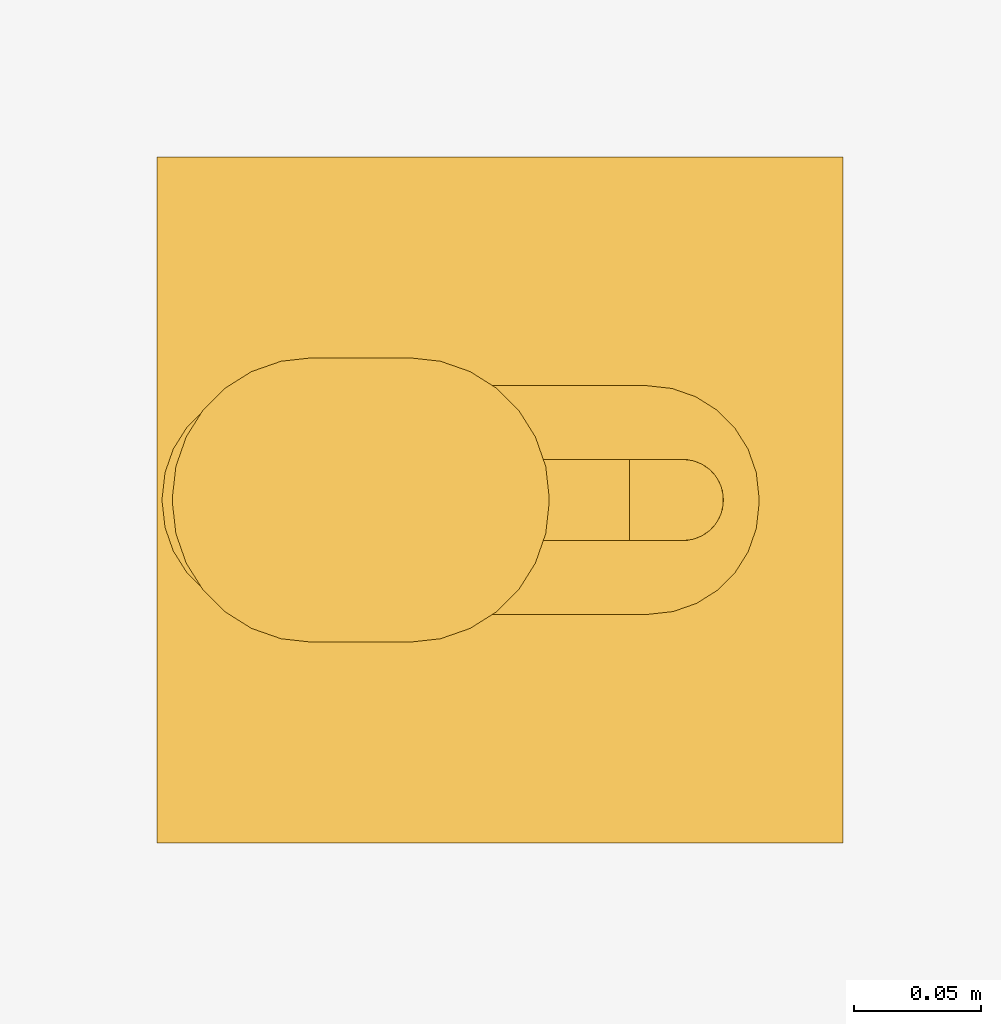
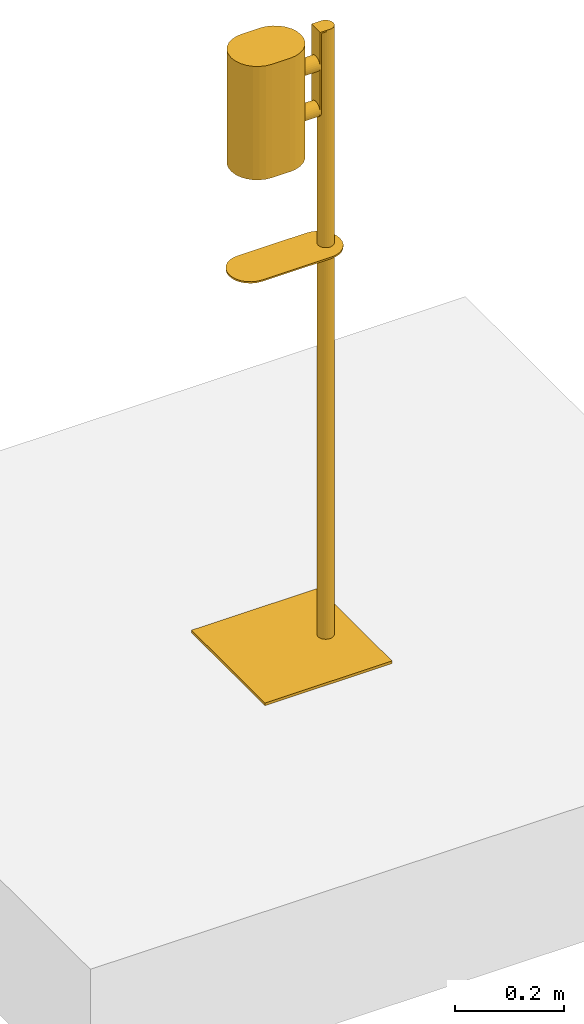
# One storey, part 2 of 2: 1 door.
"""IFC2X3 building model written with IfcOpenShell, lengths in feet."""

import ifcopenshell
import ifcopenshell.guid

model = None  # the IFC model being written
_history = None  # IfcOwnerHistory: only IFC2X3 demands one
_inside = {}  # id of a spatial element -> (the spatial element, [elements in it])
_under = {}  # id of a project, library or spatial element -> (it, [spatial elements below it])
_declared = {}  # id of a project -> (the project, [libraries it declares])
_typed = {}  # id of a type object -> (the type object, [elements of that type])
_made_of = {}  # id of a material, layer set ... -> (it, [elements and type objects made of it])


def new_model(schema):
    """Start an empty IFC model of exactly this schema.

    Asked for "IFC4X3", IfcOpenShell would pick the latest addendum, in which some entities
    have other attributes; the version numbers below select the first issue.
    IFC2X3 requires an IfcOwnerHistory on every rooted entity: one is made here for all.
    """
    global model, _history
    if schema == "IFC4X3":
        model = ifcopenshell.file(schema_version=(4, 3, 0, 0))
    else:
        model = ifcopenshell.file(schema=schema)
    _inside.clear()
    _under.clear()
    _declared.clear()
    _typed.clear()
    _made_of.clear()
    _history = None
    if model.schema == "IFC2X3":
        org = make("IfcOrganization", Name="unknown")
        user = make(
            "IfcPersonAndOrganization",
            ThePerson=make("IfcPerson", FamilyName="unknown"),
            TheOrganization=org,
        )
        app = make(
            "IfcApplication",
            ApplicationDeveloper=org,
            Version="unknown",
            ApplicationFullName="unknown",
            ApplicationIdentifier="unknown",
        )
        _history = make(
            "IfcOwnerHistory",
            OwningUser=user,
            OwningApplication=app,
            ChangeAction="ADDED",
            CreationDate=0,
        )
    return model


def make(cls, **values):
    """One entity of the class cls with the attributes given. An attribute that is None is left unset."""
    return model.create_entity(
        cls, **{name: value for name, value in values.items() if value is not None}
    )


def entity(cls, *values):
    """Any entity or typed value of the class cls, its attributes in the order of the schema. None: left unset."""
    e = model.create_entity(cls)
    for i, value in enumerate(values):
        if value is not None:
            e[i] = value
    return e


def rooted(cls, **values):
    """An entity with a GlobalId (a new one), such as an element, a storey or a relation."""
    return make(cls, GlobalId=ifcopenshell.guid.new(), OwnerHistory=_history, **values)


def si_unit(unit_type, name, prefix=None):
    """IfcSIUnit, for example si_unit("LENGTHUNIT", "METRE", prefix="MILLI")."""
    return make("IfcSIUnit", UnitType=unit_type, Prefix=prefix, Name=name)


def converted_unit(unit_type, name, factor, base, dimensions=None, offset=None):
    """IfcConversionBasedUnit, such as the inch: factor (a typed value) times the base unit."""
    return make(
        "IfcConversionBasedUnit"
        if offset is None
        else "IfcConversionBasedUnitWithOffset",
        ConversionOffset=offset,
        Dimensions=None
        if dimensions is None
        else entity("IfcDimensionalExponents", *dimensions),
        UnitType=unit_type,
        Name=name,
        ConversionFactor=make(
            "IfcMeasureWithUnit", ValueComponent=factor, UnitComponent=base
        ),
    )


def derived_unit(unit_type, elements):
    """IfcDerivedUnit: a product of units, each with its exponent."""
    return make(
        "IfcDerivedUnit",
        Elements=[
            make("IfcDerivedUnitElement", Unit=unit, Exponent=power)
            for unit, power in elements
        ],
        UnitType=unit_type,
    )


def assignment(units):
    """IfcUnitAssignment: the units of a project."""
    return None if units is None else make("IfcUnitAssignment", Units=units)


def point(xyz):
    """IfcCartesianPoint."""
    return None if xyz is None else make("IfcCartesianPoint", Coordinates=xyz)


def direction(xyz):
    """IfcDirection."""
    return None if xyz is None else make("IfcDirection", DirectionRatios=xyz)


def frame(location, z_axis=None, x_axis=None):
    """IfcAxis2Placement3D, a coordinate frame: its origin and axes. An axis left out is left unset."""
    return make(
        "IfcAxis2Placement3D",
        Location=point(location),
        Axis=direction(z_axis),
        RefDirection=direction(x_axis),
    )


def frame_2d(location, x_axis=None):
    """IfcAxis2Placement2D, a coordinate frame in the plane: its origin and x axis."""
    return make(
        "IfcAxis2Placement2D", Location=point(location), RefDirection=direction(x_axis)
    )


def origin():
    """The frame at (0, 0, 0) with its axes left unset."""
    return frame((0.0, 0.0, 0.0))


def origin_2d_with_axis():
    """The frame at (0, 0) in the plane with the x axis (1, 0) written out."""
    return frame_2d((0.0, 0.0), x_axis=(1.0, 0.0))


def place(relative_to, where):
    """IfcLocalPlacement: puts the frame where relative to a parent placement (None: the world)."""
    return make(
        "IfcLocalPlacement", PlacementRelTo=relative_to, RelativePlacement=where
    )


def context(
    kind, dimensions, precision=None, world=None, true_north=None, identifier=None
):
    """IfcGeometricRepresentationContext, for example the 3D "Model" context."""
    return make(
        "IfcGeometricRepresentationContext",
        ContextIdentifier=identifier,
        ContextType=kind,
        CoordinateSpaceDimension=dimensions,
        Precision=precision,
        WorldCoordinateSystem=world,
        TrueNorth=true_north,
    )


def subcontext(parent, identifier, kind, view, scale=None):
    """IfcGeometricRepresentationSubContext, for example "Body" below "Model"."""
    return make(
        "IfcGeometricRepresentationSubContext",
        ContextIdentifier=identifier,
        ContextType=kind,
        ParentContext=parent,
        TargetScale=scale,
        TargetView=view,
    )


def project(units=None, contexts=None):
    """IfcProject with its units and contexts."""
    return rooted(
        "IfcProject",
        Name="project",
        RepresentationContexts=contexts,
        UnitsInContext=assignment(units),
    )


def spatial(cls, under=None, at=None, **own):
    """A site, building, storey or space (cls), placed at a placement, below another one or the project."""
    s = rooted(cls, ObjectPlacement=at, **own)
    if under is not None:
        _under.setdefault(under.id(), (under, []))[1].append(s)
    return s


def polyline(points):
    """IfcPolyline through the points."""
    return make("IfcPolyline", Points=[point(p) for p in points])


def circle_curve(where, radius):
    """IfcCircle in the frame where."""
    return make("IfcCircle", Position=where, Radius=radius)


def parameter(value):
    """IfcParameterValue: where a trimmed curve begins or ends, as a parameter of its basis curve."""
    return model.create_entity("IfcParameterValue", value)


def trimmed(basis, trim1, trim2, sense, master):
    """IfcTrimmedCurve: the piece of a basis curve between two trims."""
    return make(
        "IfcTrimmedCurve",
        BasisCurve=basis,
        Trim1=trim1,
        Trim2=trim2,
        SenseAgreement=sense,
        MasterRepresentation=master,
    )


def segment(curve, same_sense, transition):
    """IfcCompositeCurveSegment."""
    return make(
        "IfcCompositeCurveSegment",
        Transition=transition,
        SameSense=same_sense,
        ParentCurve=curve,
    )


def composite_curve(segments, self_intersect=None):
    """IfcCompositeCurve: segments joined end to end."""
    return make("IfcCompositeCurve", Segments=segments, SelfIntersect=self_intersect)


def profile(cls, at=None, kind="AREA", **sizes):
    """A parametric profile (cls). Its sizes go by their IFC names, for example OverallWidth=200.0."""
    return make(cls, ProfileType=kind, Position=at, **sizes)


def rectangle(**sizes):
    """IfcRectangleProfileDef."""
    return profile("IfcRectangleProfileDef", **sizes)


def circle(**sizes):
    """IfcCircleProfileDef."""
    return profile("IfcCircleProfileDef", **sizes)


def outline(outer, holes=None, kind="AREA"):
    """IfcArbitraryClosedProfileDef: a profile drawn as a closed curve; with holes, ...WithVoids."""
    if holes is None:
        return make("IfcArbitraryClosedProfileDef", ProfileType=kind, OuterCurve=outer)
    return make(
        "IfcArbitraryProfileDefWithVoids",
        ProfileType=kind,
        OuterCurve=outer,
        InnerCurves=holes,
    )


def extrude(swept, where, along, depth):
    """IfcExtrudedAreaSolid: the profile swept, set in the frame where, extruded along a direction by depth."""
    return make(
        "IfcExtrudedAreaSolid",
        SweptArea=swept,
        Position=where,
        ExtrudedDirection=direction(along),
        Depth=depth,
    )


def shape(context_of_items, identifier, shape_type, items):
    """IfcShapeRepresentation: the items that make up one representation, for example the "Body"."""
    return make(
        "IfcShapeRepresentation",
        ContextOfItems=context_of_items,
        RepresentationIdentifier=identifier,
        RepresentationType=shape_type,
        Items=items,
    )


def source(mapping_origin, context_of_items, identifier, shape_type, items):
    """IfcRepresentationMap: a shape defined once, which mapped items show again and again."""
    return make(
        "IfcRepresentationMap",
        MappingOrigin=mapping_origin,
        MappedRepresentation=shape(context_of_items, identifier, shape_type, items),
    )


def transform(
    local_origin,
    x_axis=None,
    y_axis=None,
    z_axis=None,
    scale=None,
    scale2=None,
    scale3=None,
    uniform=True,
):
    """IfcCartesianTransformationOperator3D, or its non-uniform kind. x_axis, y_axis, z_axis: its Axis1, 2, 3."""
    if uniform:
        return make(
            "IfcCartesianTransformationOperator3D",
            Axis1=direction(x_axis),
            Axis2=direction(y_axis),
            LocalOrigin=point(local_origin),
            Scale=scale,
            Axis3=direction(z_axis),
        )
    return make(
        "IfcCartesianTransformationOperator3DnonUniform",
        Axis1=direction(x_axis),
        Axis2=direction(y_axis),
        LocalOrigin=point(local_origin),
        Scale=scale,
        Axis3=direction(z_axis),
        Scale2=scale2,
        Scale3=scale3,
    )


def mapped(mapping_source, mapping_target):
    """IfcMappedItem: shows the shape of a source again, moved by a transform."""
    return make(
        "IfcMappedItem", MappingSource=mapping_source, MappingTarget=mapping_target
    )


def material(Name=None, Category=None):
    """IfcMaterial."""
    return make("IfcMaterial", Name=Name, Category=Category)


def material_list(materials):
    """IfcMaterialList."""
    return make("IfcMaterialList", Materials=materials)


def made_of(thing, what):
    """Note that an element or type object is made of a material, layer set ...; save() writes the relation."""
    if what is not None:
        _made_of.setdefault(what.id(), (what, []))[1].append(thing)
    return thing


def type_object(cls, material=None, **own):
    """A type object (cls), such as IfcWallType, which elements share."""
    return made_of(rooted(cls, **own), material)


def type_shapes(of_type, sources):
    """Give a type object the sources (RepresentationMaps) that its elements show as mapped items."""
    of_type.RepresentationMaps = sources


def element(
    cls,
    number,
    at=None,
    inside=None,
    cuts=None,
    type_object=None,
    material=None,
    context=None,
    identifier="Body",
    shape_type=None,
    held_by="IfcProductDefinitionShape",
    body=None,
    shapes=None,
    **own,
):
    """One element of the class cls, such as IfcWall. Its Tag is "e" and its number.

    at: its placement. inside: the storey or other place that contains it. cuts: it is an
    opening in that element (IfcRelVoidsElement). A single representation is given by context,
    identifier, shape_type and body (its items); several are given by shapes. held_by: the class
    of the entity that holds the representations. save() writes the other relations.
    """
    e = rooted(cls, Tag="e%d" % number, ObjectPlacement=at, **own)
    if body is not None:
        shapes = [shape(context, identifier, shape_type, body)]
    if shapes is not None:
        e.Representation = make(held_by, Representations=shapes)
    if inside is not None:
        _inside.setdefault(inside.id(), (inside, []))[1].append(e)
    if cuts is not None:
        rooted(
            "IfcRelVoidsElement", RelatingBuildingElement=cuts, RelatedOpeningElement=e
        )
    if type_object is not None:
        _typed.setdefault(type_object.id(), (type_object, []))[1].append(e)
    return made_of(e, material)


def aggregate(whole, parts):
    """IfcRelAggregates: a whole, such as a stair, and the parts it consists of."""
    return rooted("IfcRelAggregates", RelatingObject=whole, RelatedObjects=parts)


def save(model, path):
    """Write the relations noted so far, then the file.

    IfcRelAggregates (storeys below a building ...), IfcRelContainedInSpatialStructure (elements
    in a storey), IfcRelDefinesByType, IfcRelAssociatesMaterial and IfcRelDeclares: one each for
    every whole, place, type object, material and project.
    """
    for whole, parts in _under.values():
        aggregate(whole, parts)
    for where, things in _inside.values():
        rooted(
            "IfcRelContainedInSpatialStructure",
            RelatedElements=things,
            RelatingStructure=where,
        )
    for kind, things in _typed.values():
        rooted("IfcRelDefinesByType", RelatedObjects=things, RelatingType=kind)
    for what, things in _made_of.values():
        rooted("IfcRelAssociatesMaterial", RelatedObjects=things, RelatingMaterial=what)
    for by, libraries in _declared.values():
        rooted("IfcRelDeclares", RelatingContext=by, RelatedDefinitions=libraries)
    model.write(path)


model = new_model("IFC2X3")

# Units and contexts
model_context = context("Model", 3, precision=0.0001, world=origin(), true_north=direction((6.12303176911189e-17, 1.0)))
body_context = subcontext(model_context, "Body", "Model", "MODEL_VIEW")
ifc_project = project(units=[converted_unit("LENGTHUNIT", "FOOT", entity("IfcRatioMeasure", 0.3048), si_unit("LENGTHUNIT", "METRE"), dimensions=[1, 0, 0, 0, 0, 0, 0]), converted_unit("AREAUNIT", "SQUARE FOOT", entity("IfcRatioMeasure", 0.09290304), si_unit("AREAUNIT", "SQUARE_METRE"), dimensions=[2, 0, 0, 0, 0, 0, 0]), converted_unit("VOLUMEUNIT", "CUBIC FOOT", entity("IfcRatioMeasure", 0.028316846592), si_unit("VOLUMEUNIT", "CUBIC_METRE"), dimensions=[3, 0, 0, 0, 0, 0, 0]), converted_unit("PLANEANGLEUNIT", "DEGREE", entity("IfcRatioMeasure", 0.0174532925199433), si_unit("PLANEANGLEUNIT", "RADIAN"), dimensions=[0, 0, 0, 0, 0, 0, 0]), si_unit("MASSUNIT", "GRAM", prefix="KILO"), derived_unit("MASSDENSITYUNIT", [(si_unit("MASSUNIT", "GRAM", prefix="KILO"), 1), (si_unit("LENGTHUNIT", "METRE"), -3)]), derived_unit("MOMENTOFINERTIAUNIT", [(si_unit("LENGTHUNIT", "METRE"), 4)]), si_unit("TIMEUNIT", "SECOND"), si_unit("FREQUENCYUNIT", "HERTZ"), si_unit("THERMODYNAMICTEMPERATUREUNIT", "DEGREE_CELSIUS"), derived_unit("THERMALTRANSMITTANCEUNIT", [(si_unit("MASSUNIT", "GRAM", prefix="KILO"), 1), (si_unit("THERMODYNAMICTEMPERATUREUNIT", "KELVIN"), -1), (si_unit("TIMEUNIT", "SECOND"), -3)]), derived_unit("VOLUMETRICFLOWRATEUNIT", [(si_unit("LENGTHUNIT", "METRE"), 3), (si_unit("TIMEUNIT", "SECOND"), -1)]), si_unit("ELECTRICCURRENTUNIT", "AMPERE"), si_unit("ELECTRICVOLTAGEUNIT", "VOLT"), si_unit("POWERUNIT", "WATT"), si_unit("FORCEUNIT", "NEWTON"), si_unit("ILLUMINANCEUNIT", "LUX"), si_unit("LUMINOUSFLUXUNIT", "LUMEN"), si_unit("LUMINOUSINTENSITYUNIT", "CANDELA"), derived_unit("USERDEFINED", [(si_unit("MASSUNIT", "GRAM", prefix="KILO"), -1), (si_unit("LENGTHUNIT", "METRE"), -2), (si_unit("TIMEUNIT", "SECOND"), 3), (si_unit("LUMINOUSFLUXUNIT", "LUMEN"), 1)]), derived_unit("LINEARVELOCITYUNIT", [(si_unit("LENGTHUNIT", "METRE"), 1), (si_unit("TIMEUNIT", "SECOND"), -1)]), si_unit("PRESSUREUNIT", "PASCAL"), derived_unit("USERDEFINED", [(si_unit("LENGTHUNIT", "METRE"), -2), (si_unit("MASSUNIT", "GRAM", prefix="KILO"), 1), (si_unit("TIMEUNIT", "SECOND"), -2)]), derived_unit("LINEARFORCEUNIT", [(si_unit("MASSUNIT", "GRAM", prefix="KILO"), 1), (si_unit("LENGTHUNIT", "METRE"), 1), (si_unit("TIMEUNIT", "SECOND"), -2), (si_unit("LENGTHUNIT", "METRE"), -1)]), derived_unit("PLANARFORCEUNIT", [(si_unit("MASSUNIT", "GRAM", prefix="KILO"), 1), (si_unit("LENGTHUNIT", "METRE"), 1), (si_unit("TIMEUNIT", "SECOND"), -2), (si_unit("LENGTHUNIT", "METRE"), -2)])], contexts=[model_context])

# Site, building, storey
site_placement = place(None, origin())
site = spatial("IfcSite", under=ifc_project, at=site_placement, Name="Default", CompositionType="ELEMENT")
building_placement = place(site_placement, origin())
building = spatial("IfcBuilding", under=site, at=building_placement, CompositionType="ELEMENT")
storey_placement = place(building_placement, origin())
storey = spatial("IfcBuildingStorey", under=building, at=storey_placement, Name="First Floor", CompositionType="ELEMENT", Elevation=0.0)

# Door
ifc_material = material(Name="<Unnamed>")
ifc_material_list_1 = material_list([ifc_material, ifc_material, ifc_material, ifc_material, ifc_material, ifc_material, ifc_material, ifc_material, ifc_material])
ifc_material_list_2 = material_list([ifc_material, ifc_material, ifc_material, ifc_material, ifc_material, ifc_material, ifc_material, ifc_material, ifc_material])
door_style = type_object("IfcDoorStyle", Name="14704602040:d_line_Sanitary_WallMountedPanels_TouchlessDisinfectantDispenser_Free-Standing", ConstructionType="NOTDEFINED", OperationType="NOTDEFINED", ParameterTakesPrecedence=False, Sizeable=False, material=ifc_material_list_2)
shared_shape = source(origin(), body_context, "Body", "SweptSolid", [
    extrude(outline(composite_curve([segment(polyline([(-0.034448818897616, -0.0524934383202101), (0.0344488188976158, -0.0524934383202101)]), True, "CONTINUOUS"), segment(polyline([(0.0344488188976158, -0.0524934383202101), (0.0344488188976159, 0.0524934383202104)]), True, "CONTINUOUS"), segment(polyline([(0.0344488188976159, 0.0524934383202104), (-0.0344488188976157, 0.0524934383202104)]), True, "CONTINUOUS"), segment(trimmed(circle_curve(frame_2d((-0.0344488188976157, 0.0), x_axis=(1.0, 0.0)), 0.05249343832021), [parameter(90.0)], [parameter(269.999999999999)], True, "PARAMETER"), True, "CONTINUOUS")], self_intersect=False)), frame((0.0, -0.20222137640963, 4.49805269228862), z_axis=(0.0, 0.0, 1.0), x_axis=(0.0, 1.0, 0.0)), (0.0, 0.0, 1.0), 0.00984251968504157),
    extrude(outline(composite_curve([segment(polyline([(-0.00351489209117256, -0.385732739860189), (0.00304678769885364, -0.385732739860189)]), True, "CONTINUOUS"), segment(trimmed(circle_curve(frame_2d((0.00304678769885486, -0.241375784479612), x_axis=(0.0, -1.0)), 0.144356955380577), [parameter(360.0)], [parameter(89.9999999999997)], True, "PARAMETER"), True, "CONTINUOUS"), segment(polyline([(0.147403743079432, -0.241375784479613), (0.147403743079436, 0.242780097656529)]), True, "CONTINUOUS"), segment(trimmed(circle_curve(frame_2d((0.00491920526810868, 0.24278009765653), x_axis=(0.0, -1.0)), 0.142484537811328), [parameter(89.9999999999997)], [parameter(180.0)], True, "PARAMETER"), True, "CONTINUOUS"), segment(polyline([(0.0049192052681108, 0.385264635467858), (-0.00351489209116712, 0.385264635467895)]), True, "CONTINUOUS"), segment(trimmed(circle_curve(frame_2d((-0.00351489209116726, 0.240907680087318), x_axis=(0.0, -1.0)), 0.144356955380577), [parameter(180.0)], [parameter(270.0)], True, "PARAMETER"), True, "CONTINUOUS"), segment(polyline([(-0.147871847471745, 0.240907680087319), (-0.147871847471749, -0.241375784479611)]), True, "CONTINUOUS"), segment(trimmed(circle_curve(frame_2d((-0.00351489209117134, -0.241375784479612), x_axis=(0.0, -1.0)), 0.144356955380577), [parameter(270.0)], [parameter(360.0)], True, "PARAMETER"), True, "CONTINUOUS")], self_intersect=False)), frame((-0.000234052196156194, 0.0501692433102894, 2.8920815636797), z_axis=(0.0, 0.0, 1.0), x_axis=(-1.0, 0.0, 0.0)), (0.0, 0.0, 1.0), 0.0114829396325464),
    extrude(circle(Radius=0.05249343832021, at=frame_2d((0.0, -8.32667268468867e-17), x_axis=(1.0, 0.0))), frame((0.0, -0.236670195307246, 0.0180658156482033)), (0.0, 0.0, 1.0), 2.8740157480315),
    extrude(rectangle(XDim=0.885826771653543, YDim=0.885826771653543, at=origin_2d_with_axis()), frame((0.0, -0.000449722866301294, -0.00161922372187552), z_axis=(0.0, 0.0, 1.0), x_axis=(-1.0, 0.0, 0.0)), (0.0, 0.0, 1.0), 0.0196850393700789),
    extrude(outline(composite_curve([segment(trimmed(circle_curve(frame_2d((-0.0629588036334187, -0.00328083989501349), x_axis=(1.0, 0.0)), 0.180446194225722), [parameter(180.0)], [parameter(270.0)], True, "PARAMETER"), True, "CONTINUOUS"), segment(polyline([(-0.0629588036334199, -0.183727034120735), (0.062958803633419, -0.183727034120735)]), True, "CONTINUOUS"), segment(trimmed(circle_curve(frame_2d((0.062958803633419, -0.00328083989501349), x_axis=(1.0, 0.0)), 0.180446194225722), [parameter(270.0)], [parameter(360.0)], True, "PARAMETER"), True, "CONTINUOUS"), segment(polyline([(0.243404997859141, -0.00328083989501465), (0.243404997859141, 0.00328083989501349)]), True, "CONTINUOUS"), segment(trimmed(circle_curve(frame_2d((0.062958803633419, 0.00328083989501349), x_axis=(1.0, 0.0)), 0.180446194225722), [parameter(360.0)], [parameter(89.9999999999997)], True, "PARAMETER"), True, "CONTINUOUS"), segment(polyline([(0.0629588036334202, 0.183727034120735), (-0.0629588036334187, 0.183727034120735)]), True, "CONTINUOUS"), segment(trimmed(circle_curve(frame_2d((-0.0629588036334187, 0.00328083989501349), x_axis=(1.0, 0.0)), 0.180446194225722), [parameter(89.9999999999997)], [parameter(179.999999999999)], True, "PARAMETER"), True, "CONTINUOUS"), segment(polyline([(-0.243404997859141, 0.00328083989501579), (-0.243404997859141, -0.00328083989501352)]), True, "CONTINUOUS")], self_intersect=False)), frame((0.0, 0.179373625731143, 3.66143851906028), z_axis=(0.0, 0.0, 1.0), x_axis=(0.0, 1.0, 0.0)), (0.0, 0.0, 1.0), 0.836614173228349),
    extrude(circle(Radius=0.05249343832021, at=frame_2d((0.0, -2.36331991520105e-16), x_axis=(1.0, 0.0))), frame((0.0, -0.167772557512, 4.25198970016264), z_axis=(0.0, 1.0, 0.0), x_axis=(0.0, 0.0, 1.0)), (0.0, 0.0, 1.0), 0.114829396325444),
    extrude(circle(Radius=0.05249343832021, at=frame_2d((0.0, -2.36331991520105e-16), x_axis=(1.0, 0.0))), frame((0.0, -0.167772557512, 3.9173440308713), z_axis=(0.0, 1.0, 0.0), x_axis=(0.0, 0.0, 1.0)), (0.0, 0.0, 1.0), 0.114829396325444),
    extrude(outline(composite_curve([segment(polyline([(-0.0524934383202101, -0.405183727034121), (0.0524934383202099, -0.405183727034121)]), True, "CONTINUOUS"), segment(polyline([(0.0524934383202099, -0.405183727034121), (0.0524934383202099, 0.177165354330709)]), True, "CONTINUOUS"), segment(trimmed(circle_curve(frame_2d((0.00164041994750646, 0.177165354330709), x_axis=(0.0, -1.0)), 0.0508530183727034), [parameter(90.0000000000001)], [parameter(180.0)], True, "PARAMETER"), True, "CONTINUOUS"), segment(polyline([(0.00164041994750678, 0.228018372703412), (-0.00164041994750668, 0.228018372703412)]), True, "CONTINUOUS"), segment(trimmed(circle_curve(frame_2d((-0.00164041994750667, 0.177165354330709), x_axis=(0.0, -1.0)), 0.0508530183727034), [parameter(180.0)], [parameter(270.0)], True, "PARAMETER"), True, "CONTINUOUS"), segment(polyline([(-0.0524934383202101, 0.177165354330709), (-0.0524934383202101, -0.405183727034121)]), True, "CONTINUOUS")], self_intersect=False)), frame((0.0, -0.177615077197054, 4.0928689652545), z_axis=(0.0, 1.0, 0.0), x_axis=(1.0, 0.0, 0.0)), (0.0, 0.0, 1.0), 0.00984251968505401),
    extrude(circle(Radius=0.05249343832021, at=frame_2d((-2.77555756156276e-17, -8.48054894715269e-17), x_axis=(1.0, 0.0))), frame((0.0, -0.236670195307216, 2.90356450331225), z_axis=(0.0, 0.0, 1.0), x_axis=(0.0, 1.0, 0.0)), (0.0, 0.0, 1.0), 1.59448818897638),
])
type_shapes(door_style, [shared_shape])
door_placement = place(storey_placement, frame((-3.73668579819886, -0.662391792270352, 0.0), z_axis=(0.0, 0.0, 1.0), x_axis=(0.0, 1.0, 0.0)))
element("IfcDoor", 1, at=door_placement, inside=storey, type_object=door_style, material=ifc_material_list_1, Name="14704602040:d_line_Sanitary_WallMountedPanels_TouchlessDisinfectantDispenser_Free-Standing", ObjectType="14704602040:d_line_Sanitary_WallMountedPanels_TouchlessDisinfectantDispenser_Free-Standing", OverallHeight=4.50951443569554, OverallWidth=0.885826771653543, context=body_context, shape_type="MappedRepresentation", body=[
    mapped(shared_shape, transform((0.0, 0.0, 0.0), scale=1.0)),
])

save(model, "model.ifc")
